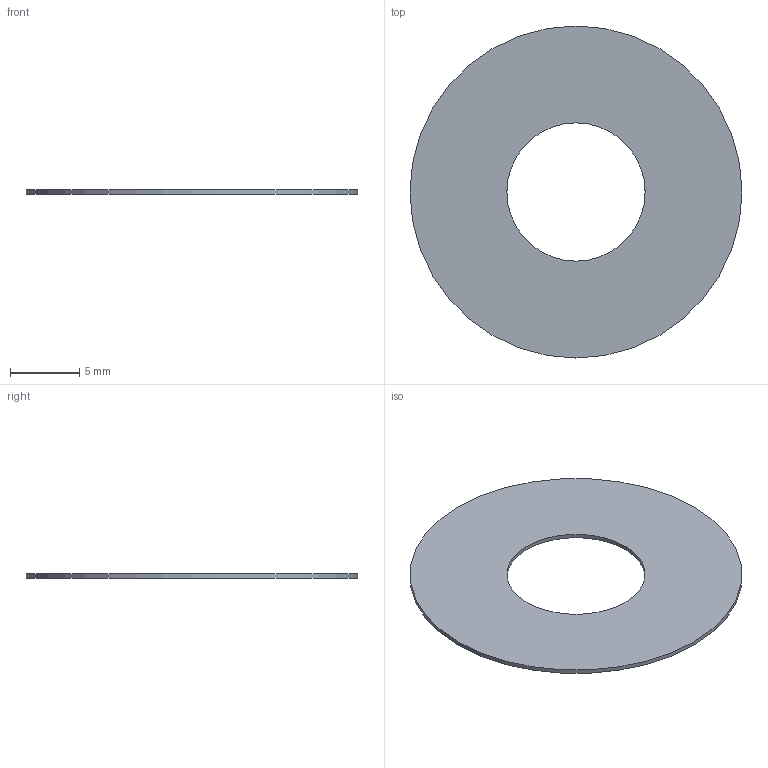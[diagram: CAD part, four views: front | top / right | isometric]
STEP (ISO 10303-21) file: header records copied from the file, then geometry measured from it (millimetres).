
FILE_DESCRIPTION(('Open CASCADE Model'),'2;1');
FILE_NAME('Open CASCADE Shape Model','2026-11-23T18:10:06',('Author'),( 'Open CASCADE'),'Open CASCADE STEP processor 8.0','build123d', 'Unknown');
FILE_SCHEMA(('AUTOMOTIVE_DESIGN { 1 0 10303 214 1 1 1 1 }'));
Length unit declared in the file: millimetre
Products named in the file (1): SOLID
Bounding box: 24 x 24 x 0.3 mm (x, y, z)
Volume: 112.2 mm3; surface area: 779.7 mm2
Topology: 1 solids, 1 shells, 4 faces, 6 edges, 4 vertices
Faces by surface type: cylinder 2, plane 2
Full cylindrical faces by diameter (mm): 10 x1, 24 x1
Entity records: 186 total; most frequent: DIRECTION 32, CARTESIAN_POINT 27, ORIENTED_EDGE 12, PCURVE 12, DEFINITIONAL_REPRESENTATION 12, LINE 10, VECTOR 10, AXIS2_PLACEMENT_3D 9
